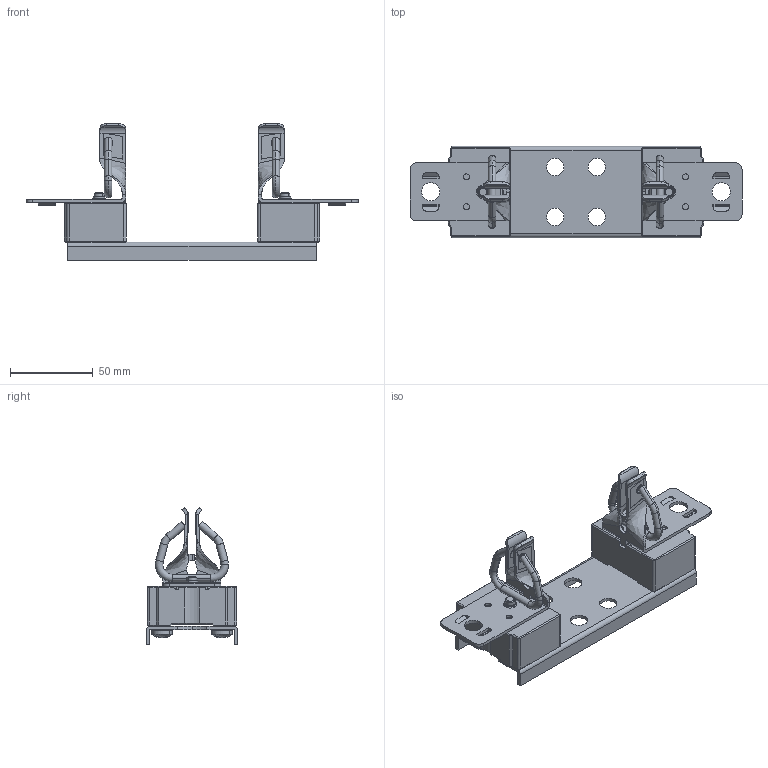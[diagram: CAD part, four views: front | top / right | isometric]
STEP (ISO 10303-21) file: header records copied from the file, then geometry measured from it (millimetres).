
FILE_DESCRIPTION (( 'STEP AP214' ), '1' );
FILE_NAME ('SPF1.step', '2011-08-12T12:33:32', ( 'Radek Veselý' ), ( 'Siemens and Partners' ), 'SwSTEP 2.0', 'SolidWorks 2006303', '' );
FILE_SCHEMA (( 'AUTOMOTIVE_DESIGN' ));
Length unit declared in the file: millimetre
Products named in the file (1): SPF1
Bounding box: 200.03 x 55 x 82.5 mm (x, y, z)
Volume: 127867 mm3; surface area: 63301.5 mm2
Topology: 19 solids, 19 shells, 743 faces, 1773 edges, 1098 vertices
Faces by surface type: plane 370, cylinder 241, cone 56, torus 40, bspline 20, sphere 16
Entity records: 30859 total; most frequent: CARTESIAN_POINT 5179, DIRECTION 3687, ORIENTED_EDGE 3514, EDGE_CURVE 1757, AXIS2_PLACEMENT_3D 1366, VERTEX_POINT 1098, VECTOR 955, LINE 955
